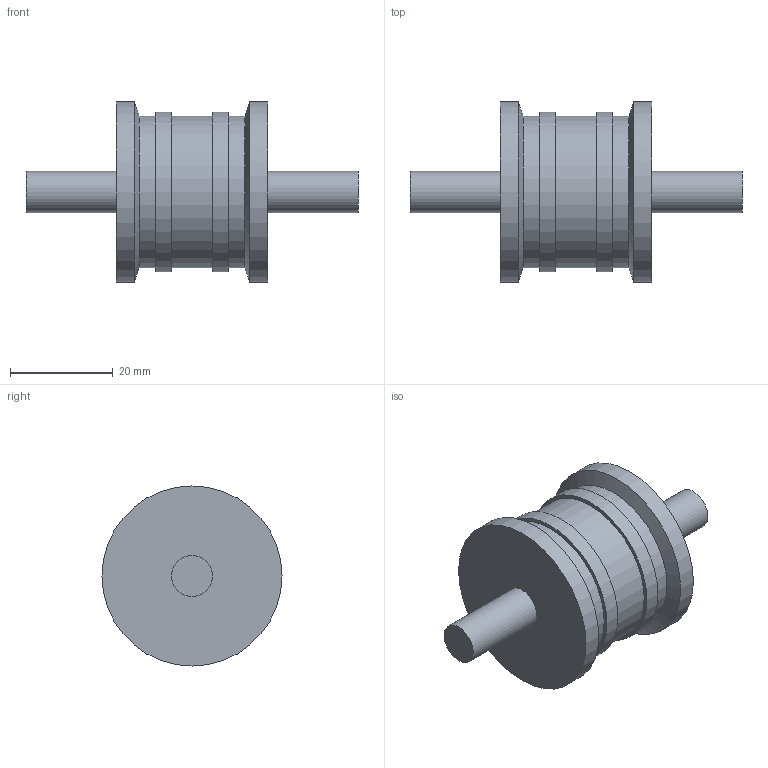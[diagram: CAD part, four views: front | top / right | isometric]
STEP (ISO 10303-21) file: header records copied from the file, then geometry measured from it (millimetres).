
FILE_DESCRIPTION(/* description */ (''),/* implementation_level */ '2;1');
FILE_NAME(/* name */ '\\NAS\db20\PR8-M8-D35-H30\DR_PR8-M8-D35-H30.stp',/* time_stamp */ '2017-09-26T09:15:41+09:00',/* author */ ('user'),/* organization */ (''),/* preprocessor_version */ 'ST-DEVELOPER v15.6',/* originating_system */ 'Autodesk Inventor 2015',/* authorisation */ '');
FILE_SCHEMA (('AUTOMOTIVE_DESIGN { 1 0 10303 214 3 1 1 }'));
Length unit declared in the file: millimetre
Products named in the file (1): DR_PR8-M8-D35-H30
Bounding box: 64.5 x 35 x 35 mm (x, y, z)
Volume: 24571 mm3; surface area: 6379.8 mm2
Topology: 1 solids, 1 shells, 19 faces, 33 edges, 22 vertices
Faces by surface type: cylinder 9, plane 8, cone 2
Full cylindrical faces by diameter (mm): 8 x2, 29.5 x3, 31 x2, 35 x2
Entity records: 398 total; most frequent: DIRECTION 76, CARTESIAN_POINT 56, AXIS2_PLACEMENT_3D 38, EDGE_LOOP 36, ORIENTED_EDGE 36, FACE_OUTER_BOUND 19, ADVANCED_FACE 19, CIRCLE 18
